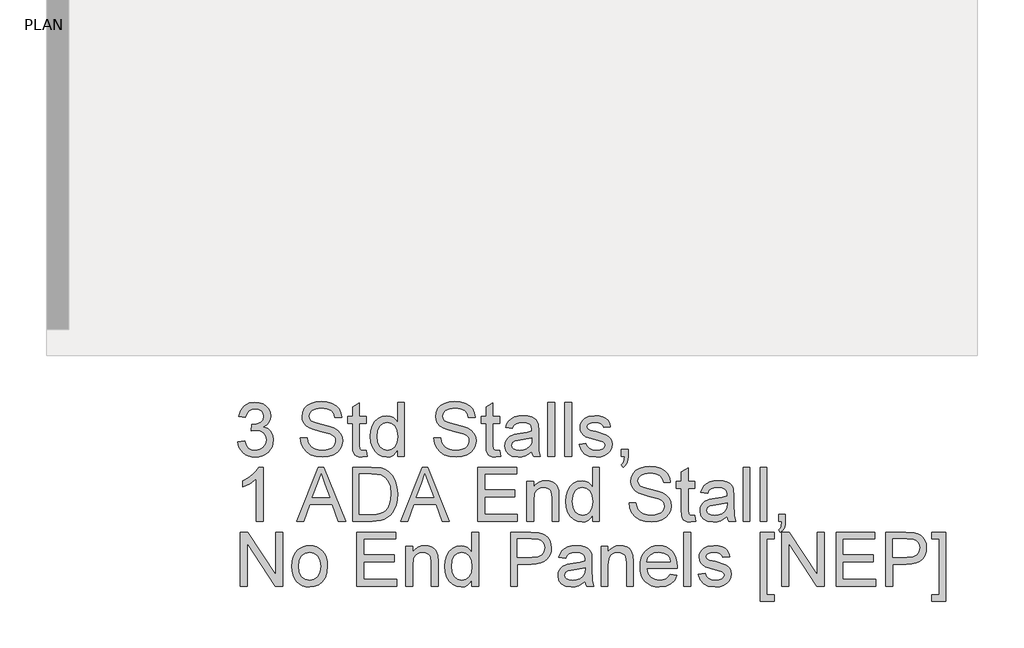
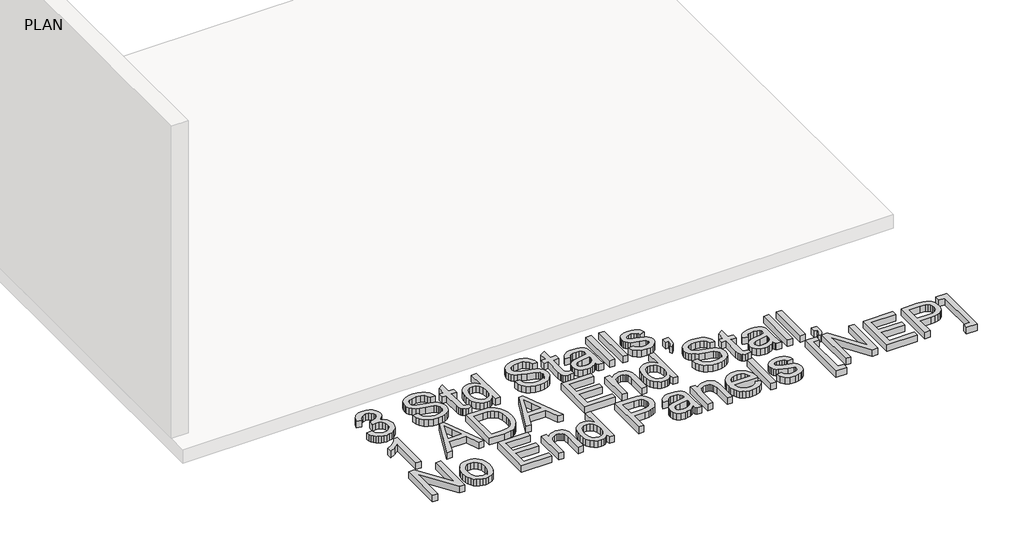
# One storey, part 14 of 21: 1 proxy.
"""IFC4 building model written with IfcOpenShell, lengths in millimetres."""

from ifc_helpers import new_model, si_unit, origin, origin_with_axes, place, context, project, spatial, polyline, outline, extrude, element, save

model = new_model("IFC4")

# Units and contexts
model_context = context("Model", 3, world=origin())
ifc_project = project(units=[si_unit("LENGTHUNIT", "METRE", prefix="MILLI")], contexts=[model_context])

# Site, building, storey
site = spatial("IfcSite", under=ifc_project)
building = spatial("IfcBuilding", under=site)
storey = spatial("IfcBuildingStorey", under=building, Name="PLAN", Elevation=0.0)

# Proxy
placement = place(None, origin())
element("IfcBuildingElementProxy", 1, Name="12\" Arial", ObjectType="12\" Arial", at=placement, inside=storey, context=model_context, shape_type="SweptSolid", body=[
    extrude(outline(polyline([(-6163.822826, 3793.9401982), (-6125.7519393, 3798.6990591), (-6117.2287451, 3774.7746298), (-6104.7460301, 3758.6205279), (-6087.6903472, 3749.4188243), (-6065.4482495, 3746.3515898), (-6039.3488721, 3750.5713609), (-6019.1980707, 3763.2306744), (-6006.3156856, 3782.1174033), (-6002.0215573, 3805.0194211), (-6006.278507, 3826.7596077), (-6019.0493563, 3844.3915589), (-6038.3822285, 3856.0749341), (-6062.3252471, 3859.9693925), (-6089.0194821, 3855.8053892), (-6084.7811217, 3893.876276), (-6078.6838312, 3893.4301328), (-6055.8747599, 3896.1627599), (-6035.4822976, 3904.3606413), (-6021.0941793, 3918.2282592), (-6016.2981398, 3937.970096), (-6019.774339, 3954.412332), (-6030.2029364, 3967.7501549), (-6046.1153773, 3976.5893671), (-6066.0431071, 3979.5357712), (-6086.0080155, 3976.5614832), (-6102.3294211, 3967.6386191), (-6114.2451625, 3952.7671789), (-6120.9930784, 3931.9471627), (-6159.0639652, 3936.7060236), (-6147.8546172, 3970.8917466), (-6127.9082981, 3996.4148557), (-6100.6192054, 4012.3087074), (-6067.3815367, 4017.6066579), (-6043.4478127, 4014.9948613), (-6021.4659653, 4007.1594712), (-6002.932433, 3994.7975866), (-5989.3436546, 3978.6063062), (-5981.0063535, 3959.9519435), (-5978.2272531, 3940.200812), (-5980.8669337, 3921.7974048), (-5988.7859756, 3905.1042133), (-6001.8728429, 3890.8833987), (-6020.0159999, 3879.8971222), (-5996.1845171, 3870.2678648), (-5978.5246819, 3853.872102), (-5967.5941734, 3831.6021204), (-5963.9506706, 3804.3502063), (-5965.772422, 3785.0359235), (-5971.2376762, 3767.2459632), (-5980.3464333, 3750.9803255), (-5993.0986932, 3736.2390105), (-6008.6347008, 3724.007251), (-6026.094701, 3715.2702799), (-6045.4786938, 3710.0280972), (-6066.7866791, 3708.280703), (-6086.0451941, 3709.7724944), (-6103.5934935, 3714.2478684), (-6119.4315772, 3721.7068251), (-6133.5594453, 3732.1493645), (-6145.4054769, 3744.9620396), (-6154.3980508, 3759.5314036), (-6160.5371672, 3775.8574565), (-6163.822826, 3793.9401982)])), origin_with_axes(), (0.0, 0.0, 1.0), 50.8),
    extrude(outline(polyline([(-5811.6671235, 3817.7345025), (-5773.5962368, 3817.7345025), (-5769.2277512, 3796.6077628), (-5761.3272986, 3779.6264371), (-5749.0025926, 3766.1491945), (-5731.3613468, 3755.5347041), (-5709.7977586, 3748.6473684), (-5685.7060255, 3746.3515898), (-5664.495634, 3748.0896894), (-5645.9249232, 3753.3039881), (-5630.8768847, 3761.5576373), (-5620.2345103, 3772.4137886), (-5613.9048536, 3784.8779144), (-5611.794968, 3797.9554871), (-5613.3750585, 3810.6984523), (-5618.1153301, 3821.7126127), (-5627.7445876, 3831.1095039), (-5643.9916359, 3839.0006619), (-5699.4249291, 3853.5374946), (-5735.8134842, 3863.1574574), (-5759.0965826, 3872.3126878), (-5778.0483741, 3885.1207156), (-5791.4791435, 3900.6427812), (-5799.4818373, 3918.5442773), (-5802.1494018, 3938.4905964), (-5798.849801, 3960.788462), (-5788.9509987, 3981.5805942), (-5772.713245, 3999.2032508), (-5750.3967901, 4011.9926893), (-5723.6096086, 4019.7723114), (-5693.9596748, 4022.3655188), (-5661.8373641, 4019.651481), (-5633.7303422, 4011.5093675), (-5610.6424314, 3998.1064821), (-5593.5774539, 3979.6101284), (-5582.7770705, 3957.1728431), (-5578.4829421, 3931.9471627), (-5616.5538289, 3931.9471627), (-5623.5434057, 3954.6632876), (-5638.1174171, 3971.0590503), (-5660.8893098, 3980.9857366), (-5692.4725308, 3984.294632), (-5724.7993238, 3981.0229152), (-5746.9763589, 3971.2077647), (-5759.802976, 3956.7638785), (-5764.0785151, 3939.6059544), (-5761.0484591, 3924.9761752), (-5751.9582914, 3913.2091482), (-5730.4690604, 3902.6876043), (-5689.7956716, 3891.9429888), (-5647.8210318, 3881.737463), (-5622.4280477, 3872.8331882), (-5600.7250398, 3859.0213382), (-5585.5840548, 3841.9749499), (-5576.6890747, 3821.8799164), (-5573.7240813, 3798.9221307), (-5577.1352179, 3775.4531392), (-5587.3686276, 3753.3783453), (-5604.0060513, 3734.3800805), (-5626.6292296, 3720.1406765), (-5653.8346704, 3711.2456964), (-5684.2188815, 3708.280703), (-5721.5183123, 3711.4780627), (-5752.2185416, 3721.0701416), (-5776.6727659, 3737.0941183), (-5795.2341822, 3759.5871715), (-5807.1499236, 3786.9878), (-5811.6671235, 3817.7345025)])), origin_with_axes(), (0.0, 0.0, 1.0), 50.8),
    extrude(outline(polyline([(-5440.4759776, 3744.7900886), (-5435.7171168, 3711.9242059), (-5464.1959246, 3708.280703), (-5482.4692067, 3709.8607935), (-5496.0951637, 3714.6010651), (-5505.7244212, 3721.9066601), (-5512.0076047, 3731.1827208), (-5515.4652145, 3747.1137511), (-5516.6177511, 3774.3842545), (-5516.6177511, 3898.6351368), (-5545.1709162, 3898.6351368), (-5545.1709162, 3936.7060236), (-5516.6177511, 3936.7060236), (-5516.6177511, 3991.0611373), (-5478.5468644, 4013.4426547), (-5478.5468644, 3936.7060236), (-5440.4759776, 3936.7060236), (-5440.4759776, 3898.6351368), (-5478.5468644, 3898.6351368), (-5478.5468644, 3775.4996125), (-5476.53922, 3755.8693115), (-5470.0329649, 3748.9169132), (-5457.0576334, 3746.3515898), (-5440.4759776, 3744.7900886)])), origin_with_axes(), (0.0, 0.0, 1.0), 50.8),
    extrude(outline(polyline([(-5264.3981264, 3713.0395639), (-5264.3981264, 3748.9540918), (-5275.78872, 3731.1594842), (-5289.5866281, 3718.4490502), (-5305.7918505, 3710.8227898), (-5324.4043873, 3708.280703), (-5349.0166208, 3711.9613845), (-5371.5468526, 3723.0034288), (-5390.6194746, 3740.63538), (-5404.8588785, 3764.0857822), (-5413.7259747, 3792.406581), (-5416.6816734, 3824.6497221), (-5413.9583409, 3856.4931933), (-5405.7883435, 3885.2508407), (-5392.1809758, 3909.2868058), (-5373.1455324, 3926.9652303), (-5350.1226841, 3937.8399709), (-5324.5531017, 3941.4648844), (-5305.926623, 3938.8716771), (-5289.456503, 3931.0920549), (-5275.4959386, 3919.1670189), (-5264.3981264, 3904.1375697), (-5264.3981264, 4017.6066579), (-5226.3272396, 4017.6066579), (-5226.3272396, 3713.0395639), (-5264.3981264, 3713.0395639)]), holes=[polyline([(-5378.6107866, 3824.7984365), (-5374.3166583, 3790.361758), (-5361.4342733, 3765.870355), (-5342.714848, 3751.2312811), (-5320.9095989, 3746.3515898), (-5299.1136444, 3751.0082095), (-5280.8682463, 3764.9780686), (-5268.5156564, 3788.5214172), (-5264.3981264, 3821.8985057), (-5268.5900136, 3858.3893019), (-5281.1656751, 3883.6893395), (-5299.8758057, 3898.4678331), (-5322.4711001, 3903.3939977), (-5344.4994208, 3898.6630208), (-5362.5496313, 3884.4700901), (-5374.5954978, 3860.0902229), (-5378.6107866, 3824.7984365)])]), origin_with_axes(), (0.0, 0.0, 1.0), 50.8),
    extrude(outline(polyline([(-5059.76711, 3817.7345025), (-5021.6962233, 3817.7345025), (-5017.3277377, 3796.6077628), (-5009.4272852, 3779.6264371), (-4997.1025791, 3766.1491945), (-4979.4613333, 3755.5347041), (-4957.8977451, 3748.6473684), (-4933.806012, 3746.3515898), (-4912.5956205, 3748.0896894), (-4894.0249097, 3753.3039881), (-4878.9768712, 3761.5576373), (-4868.3344968, 3772.4137886), (-4862.0048401, 3784.8779144), (-4859.8949546, 3797.9554871), (-4861.4750451, 3810.6984523), (-4866.2153166, 3821.7126127), (-4875.8445741, 3831.1095039), (-4892.0916225, 3839.0006619), (-4947.5249156, 3853.5374946), (-4983.9134707, 3863.1574574), (-5007.1965691, 3872.3126878), (-5026.1483607, 3885.1207156), (-5039.57913, 3900.6427812), (-5047.5818238, 3918.5442773), (-5050.2493883, 3938.4905964), (-5046.9497876, 3960.788462), (-5037.0509852, 3981.5805942), (-5020.8132315, 3999.2032508), (-4998.4967767, 4011.9926893), (-4971.7095951, 4019.7723114), (-4942.0596613, 4022.3655188), (-4909.9373506, 4019.651481), (-4881.8303288, 4011.5093675), (-4858.7424179, 3998.1064821), (-4841.6774404, 3979.6101284), (-4830.877057, 3957.1728431), (-4826.5829286, 3931.9471627), (-4864.6538154, 3931.9471627), (-4871.6433923, 3954.6632876), (-4886.2174036, 3971.0590503), (-4908.9892963, 3980.9857366), (-4940.5725173, 3984.294632), (-4972.8993103, 3981.0229152), (-4995.0763454, 3971.2077647), (-5007.9029625, 3956.7638785), (-5012.1785016, 3939.6059544), (-5009.1484457, 3924.9761752), (-5000.0582779, 3913.2091482), (-4978.5690469, 3902.6876043), (-4937.8956581, 3891.9429888), (-4895.9210183, 3881.737463), (-4870.5280343, 3872.8331882), (-4848.8250263, 3859.0213382), (-4833.6840413, 3841.9749499), (-4824.7890612, 3821.8799164), (-4821.8240678, 3798.9221307), (-4825.2352044, 3775.4531392), (-4835.4686141, 3753.3783453), (-4852.1060378, 3734.3800805), (-4874.7292161, 3720.1406765), (-4901.9346569, 3711.2456964), (-4932.318868, 3708.280703), (-4969.6182988, 3711.4780627), (-5000.3185281, 3721.0701416), (-5024.7727525, 3737.0941183), (-5043.3341687, 3759.5871715), (-5055.2499101, 3786.9878), (-5059.76711, 3817.7345025)])), origin_with_axes(), (0.0, 0.0, 1.0), 50.8),
    extrude(outline(polyline([(-4688.5759641, 3744.7900886), (-4683.8171033, 3711.9242059), (-4712.2959112, 3708.280703), (-4730.5691932, 3709.8607935), (-4744.1951503, 3714.6010651), (-4753.8244078, 3721.9066601), (-4760.1075912, 3731.1827208), (-4763.565201, 3747.1137511), (-4764.7177377, 3774.3842545), (-4764.7177377, 3898.6351368), (-4793.2709027, 3898.6351368), (-4793.2709027, 3936.7060236), (-4764.7177377, 3936.7060236), (-4764.7177377, 3991.0611373), (-4726.6468509, 4013.4426547), (-4726.6468509, 3936.7060236), (-4688.5759641, 3936.7060236), (-4688.5759641, 3898.6351368), (-4726.6468509, 3898.6351368), (-4726.6468509, 3775.4996125), (-4724.6392065, 3755.8693115), (-4718.1329514, 3748.9169132), (-4705.1576199, 3746.3515898), (-4688.5759641, 3744.7900886)])), origin_with_axes(), (0.0, 0.0, 1.0), 50.8),
    extrude(outline(polyline([(-4507.739252, 3741.5927289), (-4525.9288823, 3725.9963061), (-4544.6576022, 3715.7907803), (-4564.3529657, 3710.1582224), (-4585.4425268, 3708.280703), (-4617.258114, 3712.797903), (-4640.7271055, 3726.3495028), (-4655.1988757, 3746.9278581), (-4660.0227991, 3772.5253244), (-4658.2010477, 3788.3076403), (-4652.7357934, 3802.6399907), (-4644.3055458, 3814.9089288), (-4633.5888142, 3824.5010077), (-4606.9317578, 3836.9930174), (-4573.9915179, 3842.7185219), (-4535.0655233, 3848.7414552), (-4507.9623236, 3855.8053892), (-4507.739252, 3864.2821101), (-4510.3603434, 3881.2727305), (-4518.2236173, 3892.389132), (-4535.8090953, 3900.6427812), (-4560.3097929, 3903.3939977), (-4582.9887391, 3901.5629516), (-4598.8268229, 3896.0698134), (-4609.6272063, 3885.9107609), (-4617.1930515, 3870.0819718), (-4655.2639382, 3874.8408326), (-4648.655442, 3895.6608488), (-4638.7938183, 3912.019433), (-4624.7588966, 3924.530032), (-4605.6305068, 3933.8060928), (-4582.2358725, 3939.5501865), (-4555.4022177, 3941.4648844), (-4529.6653316, 3939.7732581), (-4509.2635747, 3934.6983792), (-4493.8809288, 3927.0674714), (-4483.2013758, 3917.7077588), (-4476.1188524, 3906.1359194), (-4471.5272953, 3891.8686316), (-4469.6683653, 3858.5566056), (-4469.6683653, 3811.1910688), (-4467.7350781, 3745.0503388), (-4460.1506436, 3713.0395639), (-4498.2215303, 3713.0395639), (-4504.3188208, 3726.2751456), (-4507.739252, 3741.5927289)]), holes=[polyline([(-4507.739252, 3817.7345025), (-4569.1582998, 3806.060422), (-4601.9126467, 3799.8887743), (-4616.7469083, 3789.8505522), (-4621.9519123, 3775.2021837), (-4619.117044, 3763.8812999), (-4610.6124392, 3754.6052391), (-4596.6239908, 3748.4150021), (-4577.3375919, 3746.3515898), (-4556.8893617, 3748.6287791), (-4538.8205619, 3755.4603469), (-4524.1721934, 3765.5264529), (-4513.9852569, 3777.5072569), (-4509.468057, 3789.8505522), (-4507.9623236, 3806.9527084), (-4507.739252, 3817.7345025)])]), origin_with_axes(), (0.0, 0.0, 1.0), 50.8),
    extrude(outline(polyline([(-4417.320896, 3713.0395639), (-4417.320896, 4017.6066579), (-4379.2500092, 4017.6066579), (-4379.2500092, 3713.0395639), (-4417.320896, 3713.0395639)])), origin_with_axes(), (0.0, 0.0, 1.0), 50.8),
    extrude(outline(polyline([(-4322.1436791, 3713.0395639), (-4322.1436791, 4017.6066579), (-4284.0727923, 4017.6066579), (-4284.0727923, 3713.0395639), (-4322.1436791, 3713.0395639)])), origin_with_axes(), (0.0, 0.0, 1.0), 50.8),
    extrude(outline(polyline([(-4241.2430447, 3779.6636157), (-4203.172158, 3784.4224765), (-4197.167814, 3768.1382496), (-4185.5495014, 3756.1667403), (-4168.2428629, 3748.8053774), (-4145.1735414, 3746.3515898), (-4122.3830594, 3748.6008951), (-4106.3590827, 3755.3488111), (-4096.8785396, 3765.126783), (-4093.7183585, 3776.4662561), (-4096.8971289, 3786.1698708), (-4106.4334399, 3793.5684122), (-4145.6196846, 3804.4245635), (-4202.9490864, 3823.0510423), (-4217.4580352, 3832.410755), (-4227.9702844, 3844.8005235), (-4234.355709, 3859.4303028), (-4236.4841839, 3875.5100474), (-4234.7739683, 3890.2606571), (-4229.6433214, 3903.8773195), (-4221.5569758, 3915.8209448), (-4210.979664, 3925.5524435), (-4186.7763952, 3936.8175594), (-4154.0220483, 3941.4648844), (-4129.2425112, 3939.5966598), (-4107.6975123, 3933.9919858), (-4090.3722845, 3925.1992468), (-4078.2520608, 3913.7668272), (-4070.2214831, 3898.8489138), (-4065.1651935, 3879.5996934), (-4103.2360802, 3874.8408326), (-4108.0414143, 3886.8216366), (-4117.5498414, 3895.8467418), (-4131.8543078, 3901.5071837), (-4151.0477603, 3903.3939977), (-4172.9087773, 3901.5908356), (-4187.4827886, 3896.1813492), (-4195.68067, 3888.3738431), (-4198.4132971, 3879.3766218), (-4193.8775079, 3868.2973989), (-4179.6752825, 3859.8950353), (-4146.883757, 3851.7901004), (-4091.0043207, 3833.870015), (-4076.2444164, 3825.3003476), (-4065.0536577, 3813.5704992), (-4057.9990183, 3798.6432912), (-4055.6474718, 3780.4815449), (-4058.4079829, 3761.7063517), (-4066.6895161, 3744.0465166), (-4080.1760534, 3728.8869423), (-4098.5515766, 3717.6125317), (-4120.747201, 3710.6136602), (-4145.6940418, 3708.280703), (-4184.0809467, 3712.7793137), (-4212.0950221, 3726.2751456), (-4230.795858, 3748.6194844), (-4241.2430447, 3779.6636157)])), origin_with_axes(), (0.0, 0.0, 1.0), 50.8),
    extrude(outline(polyline([(-4003.3000025, 3713.0395639), (-4003.3000025, 3751.1104506), (-3965.2291157, 3751.1104506), (-3965.2291157, 3713.0395639), (-3966.9393313, 3691.2621987), (-3972.0699782, 3674.1135693), (-3980.9184851, 3660.9616394), (-3993.7822808, 3651.1743729), (-4003.3000025, 3665.4509554), (-3995.0463532, 3672.3475858), (-3989.3208488, 3681.8838968), (-3984.3389163, 3713.0395639), (-4003.3000025, 3713.0395639)])), origin_with_axes(), (0.0, 0.0, 1.0), 50.8),
    extrude(outline(polyline([(-6021.0570007, 3346.9868995), (-6059.1278874, 3346.9868995), (-6059.1278874, 3584.3350842), (-6095.1911298, 3558.6446713), (-6135.269661, 3539.423335), (-6135.269661, 3575.4122201), (-6105.3687716, 3591.6778577), (-6079.4645818, 3611.0293192), (-6059.0442356, 3631.6076745), (-6045.5948769, 3651.5539936), (-6021.0570007, 3651.5539936), (-6021.0570007, 3346.9868995)])), origin_with_axes(), (0.0, 0.0, 1.0), 50.8),
    extrude(outline(polyline([(-5832.8589257, 3346.9868995), (-5711.2849026, 3651.5539936), (-5678.8651631, 3651.5539936), (-5557.2911399, 3346.9868995), (-5597.5183855, 3346.9868995), (-5632.3919126, 3442.1641164), (-5757.8325102, 3442.1641164), (-5792.6316801, 3346.9868995), (-5832.8589257, 3346.9868995)]), holes=[polyline([(-5743.8533565, 3480.2350032), (-5646.2967092, 3480.2350032), (-5673.7345162, 3555.1127043), (-5695.0750328, 3613.4831068), (-5714.036119, 3561.656138), (-5743.8533565, 3480.2350032)])]), origin_with_axes(), (0.0, 0.0, 1.0), 50.8),
    extrude(outline(polyline([(-5516.6177511, 3346.9868995), (-5516.6177511, 3651.5539936), (-5411.5510265, 3651.5539936), (-5357.1959128, 3647.1669188), (-5332.9182868, 3638.7087872), (-5312.432878, 3625.380259), (-5291.3712009, 3602.1808123), (-5276.3696357, 3573.3302185), (-5267.3910037, 3539.3861564), (-5264.3981264, 3500.906305), (-5266.4243601, 3468.2170206), (-5272.5030612, 3439.4500786), (-5281.7605327, 3414.9586756), (-5293.3230774, 3395.0960084), (-5306.6330164, 3379.4159337), (-5321.1326705, 3367.4723083), (-5337.7793888, 3358.6145068), (-5357.5305202, 3352.1919036), (-5406.4947369, 3346.9868995), (-5516.6177511, 3346.9868995)]), holes=[polyline([(-5478.5468644, 3385.0577863), (-5411.1792405, 3385.0577863), (-5383.3138796, 3386.4333945), (-5362.1778453, 3390.5602191), (-5346.2282257, 3397.1965993), (-5333.922109, 3406.1008741), (-5320.6958219, 3422.5802887), (-5310.759841, 3443.9115107), (-5304.5417201, 3470.1874864), (-5302.4690131, 3501.5011626), (-5306.5307752, 3542.9924806), (-5318.7160615, 3573.6276473), (-5336.7197987, 3594.6707351), (-5358.2369136, 3607.3858164), (-5380.1351093, 3611.9587842), (-5412.2202414, 3613.4831068), (-5478.5468644, 3613.4831068), (-5478.5468644, 3385.0577863)])]), origin_with_axes(), (0.0, 0.0, 1.0), 50.8),
    extrude(outline(polyline([(-5247.5190418, 3346.9868995), (-5125.9450187, 3651.5539936), (-5093.5252792, 3651.5539936), (-4971.951256, 3346.9868995), (-5012.1785016, 3346.9868995), (-5047.0520287, 3442.1641164), (-5172.4926263, 3442.1641164), (-5207.2917962, 3346.9868995), (-5247.5190418, 3346.9868995)]), holes=[polyline([(-5158.5134726, 3480.2350032), (-5060.9568252, 3480.2350032), (-5088.3946323, 3555.1127043), (-5109.7351489, 3613.4831068), (-5128.6962351, 3561.656138), (-5158.5134726, 3480.2350032)])]), origin_with_axes(), (0.0, 0.0, 1.0), 50.8),
    extrude(outline(polyline([(-4812.3063461, 3346.9868995), (-4812.3063461, 3651.5539936), (-4593.3987472, 3651.5539936), (-4593.3987472, 3613.4831068), (-4774.2354593, 3613.4831068), (-4774.2354593, 3523.0647508), (-4602.9164689, 3523.0647508), (-4602.9164689, 3484.993864), (-4774.2354593, 3484.993864), (-4774.2354593, 3385.0577863), (-4588.6398864, 3385.0577863), (-4588.6398864, 3346.9868995), (-4812.3063461, 3346.9868995)])), origin_with_axes(), (0.0, 0.0, 1.0), 50.8),
    extrude(outline(polyline([(-4536.2924171, 3346.9868995), (-4536.2924171, 3570.6533592), (-4498.2215303, 3570.6533592), (-4498.2215303, 3539.423335), (-4484.9952433, 3555.1684722), (-4469.1106863, 3566.4149988), (-4450.5678593, 3573.1629148), (-4429.3667625, 3575.4122201), (-4410.600864, 3573.5997633), (-4393.415056, 3568.162393), (-4379.0827055, 3559.7786186), (-4368.8771797, 3549.1269496), (-4357.4633494, 3521.1314636), (-4355.455705, 3484.3246492), (-4355.455705, 3346.9868995), (-4393.5265918, 3346.9868995), (-4393.5265918, 3479.1940024), (-4397.9136666, 3512.8778143), (-4403.9830731, 3522.9067417), (-4413.4171429, 3530.6863639), (-4425.5094827, 3535.677591), (-4439.553699, 3537.3413333), (-4461.8515646, 3533.604884), (-4480.859124, 3522.395536), (-4488.4551768, 3513.244953), (-4493.8809288, 3500.7390013), (-4498.2215303, 3465.6609919), (-4498.2215303, 3346.9868995), (-4536.2924171, 3346.9868995)])), origin_with_axes(), (0.0, 0.0, 1.0), 50.8),
    extrude(outline(polyline([(-4165.1012712, 3346.9868995), (-4165.1012712, 3382.9014275), (-4176.4918649, 3365.1068199), (-4190.2897729, 3352.3963859), (-4206.4949954, 3344.7701255), (-4225.1075322, 3342.2280387), (-4249.7197656, 3345.9087201), (-4272.2499974, 3356.9507644), (-4291.3226194, 3374.5827156), (-4305.5620233, 3398.0331178), (-4314.4291195, 3426.3539166), (-4317.3848182, 3458.5970578), (-4314.6614858, 3490.440529), (-4306.4914883, 3519.1981764), (-4292.8841206, 3543.2341415), (-4273.8486772, 3560.912566), (-4250.825829, 3571.7873066), (-4225.2562466, 3575.4122201), (-4206.6297678, 3572.8190127), (-4190.1596478, 3565.0393906), (-4176.1990834, 3553.1143545), (-4165.1012712, 3538.0849053), (-4165.1012712, 3651.5539936), (-4127.0303845, 3651.5539936), (-4127.0303845, 3346.9868995), (-4165.1012712, 3346.9868995)]), holes=[polyline([(-4279.3139315, 3458.7457722), (-4275.0198031, 3424.3090936), (-4262.1374181, 3399.8176906), (-4243.4179928, 3385.1786167), (-4221.6127437, 3380.2989255), (-4199.8167893, 3384.9555451), (-4181.5713912, 3398.9254042), (-4169.2188012, 3422.4687529), (-4165.1012712, 3455.8458414), (-4169.2931584, 3492.3366376), (-4181.86882, 3517.6366751), (-4200.5789506, 3532.4151688), (-4223.174245, 3537.3413333), (-4245.2025657, 3532.6103564), (-4263.2527761, 3518.4174258), (-4275.2986426, 3494.0375586), (-4279.3139315, 3458.7457722)])]), origin_with_axes(), (0.0, 0.0, 1.0), 50.8),
    extrude(outline(polyline([(-3960.4702549, 3451.6818381), (-3922.3993681, 3451.6818381), (-3918.0308826, 3430.5550985), (-3910.13043, 3413.5737728), (-3897.805724, 3400.0965301), (-3880.1644781, 3389.4820397), (-3858.6008899, 3382.594704), (-3834.5091569, 3380.2989255), (-3813.2987654, 3382.037025), (-3794.7280545, 3387.2513237), (-3779.680016, 3395.504973), (-3769.0376417, 3406.3611243), (-3762.707985, 3418.8252501), (-3760.5980994, 3431.9028227), (-3762.1781899, 3444.645788), (-3766.9184615, 3455.6599484), (-3776.5477189, 3465.0568396), (-3792.7947673, 3472.9479975), (-3848.2280604, 3487.4848303), (-3884.6166155, 3497.1047931), (-3907.899714, 3506.2600234), (-3926.8515055, 3519.0680513), (-3940.2822749, 3534.5901169), (-3948.2849686, 3552.491613), (-3950.9525332, 3572.4379321), (-3947.6529324, 3594.7357976), (-3937.7541301, 3615.5279299), (-3921.5163764, 3633.1505864), (-3899.1999215, 3645.940025), (-3872.41274, 3653.7196471), (-3842.7628062, 3656.3128545), (-3810.6404955, 3653.5988166), (-3782.5334736, 3645.4567031), (-3759.4455628, 3632.0538177), (-3742.3805852, 3613.557464), (-3731.5802018, 3591.1201787), (-3727.2860735, 3565.8944984), (-3765.3569602, 3565.8944984), (-3772.3465371, 3588.6106232), (-3786.9205484, 3605.006386), (-3809.6924412, 3614.9330723), (-3841.2756622, 3618.2419677), (-3873.6024552, 3614.9702509), (-3895.7794903, 3605.1551004), (-3908.6061074, 3590.7112141), (-3912.8816464, 3573.5532901), (-3909.8515905, 3558.9235108), (-3900.7614227, 3547.1564838), (-3879.2721917, 3536.6349399), (-3838.5988029, 3525.8903244), (-3796.6241631, 3515.6847986), (-3771.2311791, 3506.7805238), (-3749.5281711, 3492.9686738), (-3734.3871862, 3475.9222856), (-3725.492206, 3455.8272521), (-3722.5272126, 3432.8694663), (-3725.9383492, 3409.4004749), (-3736.171759, 3387.3256809), (-3752.8091826, 3368.3274161), (-3775.4323609, 3354.0880122), (-3802.6378017, 3345.1930321), (-3833.0220129, 3342.2280387), (-3870.3214437, 3345.4253983), (-3901.0216729, 3355.0174772), (-3925.4758973, 3371.041454), (-3944.0373135, 3393.5345072), (-3955.9530549, 3420.9351356), (-3960.4702549, 3451.6818381)])), origin_with_axes(), (0.0, 0.0, 1.0), 50.8),
    extrude(outline(polyline([(-3589.279109, 3378.7374242), (-3584.5202481, 3345.8715415), (-3612.999056, 3342.2280387), (-3631.2723381, 3343.8081292), (-3644.8982951, 3348.5484008), (-3654.5275526, 3355.8539957), (-3660.8107361, 3365.1300565), (-3664.2683459, 3381.0610868), (-3665.4208825, 3408.3315901), (-3665.4208825, 3532.5824725), (-3693.9740476, 3532.5824725), (-3693.9740476, 3570.6533592), (-3665.4208825, 3570.6533592), (-3665.4208825, 3625.008473), (-3627.3499957, 3647.3899904), (-3627.3499957, 3570.6533592), (-3589.279109, 3570.6533592), (-3589.279109, 3532.5824725), (-3627.3499957, 3532.5824725), (-3627.3499957, 3409.4469481), (-3625.3423513, 3389.8166471), (-3618.8360963, 3382.8642489), (-3605.8607647, 3380.2989255), (-3589.279109, 3378.7374242)])), origin_with_axes(), (0.0, 0.0, 1.0), 50.8),
    extrude(outline(polyline([(-3408.4423969, 3375.5400646), (-3426.6320271, 3359.9436418), (-3445.360747, 3349.738116), (-3465.0561106, 3344.105558), (-3486.1456716, 3342.2280387), (-3517.9612589, 3346.7452386), (-3541.4302503, 3360.2968385), (-3555.9020205, 3380.8751938), (-3560.7259439, 3406.4726601), (-3558.9041925, 3422.2549759), (-3553.4389382, 3436.5873264), (-3545.0086906, 3448.8562645), (-3534.2919591, 3458.4483434), (-3507.6349026, 3470.9403531), (-3474.6946627, 3476.6658576), (-3435.7686681, 3482.6887908), (-3408.6654685, 3489.7527249), (-3408.4423969, 3498.2294458), (-3411.0634882, 3515.2200661), (-3418.9267622, 3526.3364676), (-3436.5122401, 3534.5901169), (-3461.0129378, 3537.3413333), (-3483.691884, 3535.5102873), (-3499.5299677, 3530.0171491), (-3510.3303511, 3519.8580965), (-3517.8961963, 3504.0293074), (-3555.9670831, 3508.7881683), (-3549.3585869, 3529.6081845), (-3539.4969631, 3545.9667686), (-3525.4620415, 3558.4773676), (-3506.3336516, 3567.7534284), (-3482.9390173, 3573.4975222), (-3456.1053625, 3575.4122201), (-3430.3684764, 3573.7205938), (-3409.9667195, 3568.6457148), (-3394.5840736, 3561.0148071), (-3383.9045207, 3551.6550945), (-3376.8219973, 3540.0832551), (-3372.2304401, 3525.8159672), (-3370.3715101, 3492.5039413), (-3370.3715101, 3445.1384045), (-3368.4382229, 3378.9976744), (-3360.8537884, 3346.9868995), (-3398.9246752, 3346.9868995), (-3405.0219657, 3360.2224813), (-3408.4423969, 3375.5400646)]), holes=[polyline([(-3408.4423969, 3451.6818381), (-3469.8614447, 3440.0077576), (-3502.6157916, 3433.83611), (-3517.4500531, 3423.7978879), (-3522.6550572, 3409.1495193), (-3519.8201889, 3397.8286355), (-3511.3155841, 3388.5525747), (-3497.3271357, 3382.3623378), (-3478.0407367, 3380.2989255), (-3457.5925065, 3382.5761147), (-3439.5237068, 3389.4076825), (-3424.8753382, 3399.4737886), (-3414.6884017, 3411.4545925), (-3410.1712018, 3423.7978879), (-3408.6654685, 3440.900044), (-3408.4423969, 3451.6818381)])]), origin_with_axes(), (0.0, 0.0, 1.0), 50.8),
    extrude(outline(polyline([(-3318.0240408, 3346.9868995), (-3318.0240408, 3651.5539936), (-3279.9531541, 3651.5539936), (-3279.9531541, 3346.9868995), (-3318.0240408, 3346.9868995)])), origin_with_axes(), (0.0, 0.0, 1.0), 50.8),
    extrude(outline(polyline([(-3222.8468239, 3346.9868995), (-3222.8468239, 3651.5539936), (-3184.7759372, 3651.5539936), (-3184.7759372, 3346.9868995), (-3222.8468239, 3346.9868995)])), origin_with_axes(), (0.0, 0.0, 1.0), 50.8),
    extrude(outline(polyline([(-3118.1518853, 3346.9868995), (-3118.1518853, 3385.0577863), (-3080.0809986, 3385.0577863), (-3080.0809986, 3346.9868995), (-3081.7912142, 3325.2095344), (-3086.9218611, 3308.060905), (-3095.7703679, 3294.9089751), (-3108.6341637, 3285.1217086), (-3118.1518853, 3299.3982911), (-3109.8982361, 3306.2949215), (-3104.1727316, 3315.8312324), (-3099.1907992, 3346.9868995), (-3118.1518853, 3346.9868995)])), origin_with_axes(), (0.0, 0.0, 1.0), 50.8),
    extrude(outline(polyline([(-6149.5462435, 2980.9342352), (-6149.5462435, 3285.5013293), (-6108.7984975, 3285.5013293), (-5949.674088, 3044.212213), (-5949.674088, 3285.5013293), (-5911.6032013, 3285.5013293), (-5911.6032013, 2980.9342352), (-5952.3509472, 2980.9342352), (-6111.4753567, 3222.2977087), (-6111.4753567, 2980.9342352), (-6149.5462435, 2980.9342352)])), origin_with_axes(), (0.0, 0.0, 1.0), 50.8),
    extrude(outline(polyline([(-5859.255732, 3092.7674651), (-5857.196967, 3121.7342421), (-5851.020672, 3146.6950249), (-5840.726847, 3167.6498135), (-5826.3154921, 3184.5986079), (-5811.8065433, 3195.4315226), (-5795.7918612, 3203.1693188), (-5778.2714458, 3207.8119965), (-5759.245297, 3209.3595558), (-5738.2417115, 3207.4750654), (-5719.2504177, 3201.8215945), (-5702.2714156, 3192.399143), (-5687.3047053, 3179.2077109), (-5675.0892115, 3162.6934413), (-5666.3638587, 3143.3024776), (-5661.128647, 3121.0348196), (-5659.3835765, 3095.8904675), (-5662.4694003, 3057.4292054), (-5671.7268718, 3028.1510576), (-5686.8864461, 3006.2249781), (-5707.6785783, 2989.8199207), (-5732.3744636, 2979.5865109), (-5759.245297, 2976.1753744), (-5780.555606, 2978.0528937), (-5799.7234982, 2983.6854516), (-5816.7489735, 2993.0730482), (-5831.6320319, 3006.2156834), (-5843.7174007, 3022.8902857), (-5852.3498069, 3042.8737834), (-5857.5292507, 3066.1661765), (-5859.255732, 3092.7674651)]), holes=[polyline([(-5821.1848452, 3092.8418223), (-5816.7791811, 3058.3865544), (-5803.5621886, 3033.8393835), (-5783.6716375, 3019.1445417), (-5759.245297, 3014.2462611), (-5734.9304924, 3019.1724257), (-5715.0771198, 3033.9509193), (-5701.8601274, 3058.8234029), (-5697.4544632, 3094.0315375), (-5701.8880113, 3127.4829831), (-5715.1886556, 3151.6955466), (-5735.0699121, 3166.3903884), (-5759.245297, 3171.288669), (-5783.6716375, 3166.4089777), (-5803.5621886, 3151.7699038), (-5816.7791811, 3127.2785008), (-5821.1848452, 3092.8418223)])]), origin_with_axes(), (0.0, 0.0, 1.0), 50.8),
    extrude(outline(polyline([(-5492.8234469, 2980.9342352), (-5492.8234469, 3285.5013293), (-5273.9158481, 3285.5013293), (-5273.9158481, 3247.4304425), (-5454.7525602, 3247.4304425), (-5454.7525602, 3157.0120865), (-5283.4335697, 3157.0120865), (-5283.4335697, 3118.9411997), (-5454.7525602, 3118.9411997), (-5454.7525602, 3019.005122), (-5269.1569872, 3019.005122), (-5269.1569872, 2980.9342352), (-5492.8234469, 2980.9342352)])), origin_with_axes(), (0.0, 0.0, 1.0), 50.8),
    extrude(outline(polyline([(-5216.8095179, 2980.9342352), (-5216.8095179, 3204.6006949), (-5178.7386312, 3204.6006949), (-5178.7386312, 3173.3706706), (-5165.5123441, 3189.1158079), (-5149.6277871, 3200.3623345), (-5131.0849602, 3207.1102504), (-5109.8838633, 3209.3595558), (-5091.1179648, 3207.547099), (-5073.9321568, 3202.1097287), (-5059.5998063, 3193.7259543), (-5049.3942805, 3183.0742853), (-5037.9804502, 3155.0787992), (-5035.9728058, 3118.2719849), (-5035.9728058, 2980.9342352), (-5074.0436926, 2980.9342352), (-5074.0436926, 3113.141338), (-5078.4307674, 3146.82515), (-5084.5001739, 3156.8540774), (-5093.9342438, 3164.6336995), (-5106.0265835, 3169.6249266), (-5120.0707998, 3171.288669), (-5142.3686654, 3167.5522197), (-5161.3762248, 3156.3428717), (-5168.9722776, 3147.1922886), (-5174.3980296, 3134.6863369), (-5178.7386312, 3099.6083275), (-5178.7386312, 2980.9342352), (-5216.8095179, 2980.9342352)])), origin_with_axes(), (0.0, 0.0, 1.0), 50.8),
    extrude(outline(polyline([(-4845.618372, 2980.9342352), (-4845.618372, 3016.8487631), (-4857.0089657, 2999.0541555), (-4870.8068738, 2986.3437215), (-4887.0120962, 2978.7174612), (-4905.624633, 2976.1753744), (-4930.2368664, 2979.8560558), (-4952.7670982, 2990.8981001), (-4971.8397202, 3008.5300513), (-4986.0791241, 3031.9804535), (-4994.9462203, 3060.3012523), (-4997.9019191, 3092.5443935), (-4995.1785866, 3124.3878647), (-4987.0085891, 3153.145512), (-4973.4012214, 3177.1814771), (-4954.365778, 3194.8599016), (-4931.3429298, 3205.7346422), (-4905.7733474, 3209.3595558), (-4887.1468686, 3206.7663484), (-4870.6767487, 3198.9867263), (-4856.7161842, 3187.0616902), (-4845.618372, 3172.032241), (-4845.618372, 3285.5013293), (-4807.5474853, 3285.5013293), (-4807.5474853, 2980.9342352), (-4845.618372, 2980.9342352)]), holes=[polyline([(-4959.8310323, 3092.6931079), (-4955.536904, 3058.2564293), (-4942.6545189, 3033.7650263), (-4923.9350937, 3019.1259524), (-4902.1298446, 3014.2462611), (-4880.3338901, 3018.9028808), (-4862.088492, 3032.8727399), (-4849.735902, 3056.4160886), (-4845.618372, 3089.793177), (-4849.8102592, 3126.2839733), (-4862.3859208, 3151.5840108), (-4881.0960514, 3166.3625044), (-4903.6913458, 3171.288669), (-4925.7196665, 3166.5576921), (-4943.7698769, 3152.3647614), (-4955.8157435, 3127.9848942), (-4959.8310323, 3092.6931079)])]), origin_with_axes(), (0.0, 0.0, 1.0), 50.8),
    extrude(outline(polyline([(-4626.7107732, 2980.9342352), (-4626.7107732, 3285.5013293), (-4513.8365425, 3285.5013293), (-4468.3299357, 3282.6013984), (-4448.0397145, 3277.1826174), (-4431.3372283, 3268.3619945), (-4417.8878696, 3255.7398597), (-4407.3570311, 3238.916543), (-4400.5533472, 3219.0724651), (-4398.2854526, 3197.3880464), (-4399.8167462, 3178.6918578), (-4404.410627, 3161.4921078), (-4412.067095, 3145.7887965), (-4422.7861502, 3131.5819238), (-4437.501905, 3119.8056022), (-4457.1484716, 3111.3939438), (-4481.7258501, 3106.3469488), (-4511.2340405, 3104.6646172), (-4588.6398864, 3104.6646172), (-4588.6398864, 2980.9342352), (-4626.7107732, 2980.9342352)]), holes=[polyline([(-4588.6398864, 3142.7355039), (-4509.0033244, 3142.7355039), (-4475.2451553, 3146.2302924), (-4452.9379951, 3156.7146577), (-4440.5017533, 3173.5379743), (-4436.3563394, 3196.0496168), (-4438.8008323, 3213.151773), (-4446.1343113, 3227.5770699), (-4457.4459004, 3238.4332212), (-4471.8247241, 3244.8279405), (-4509.8956109, 3247.4304425), (-4588.6398864, 3247.4304425), (-4588.6398864, 3142.7355039)])]), origin_with_axes(), (0.0, 0.0, 1.0), 50.8),
    extrude(outline(polyline([(-4207.9310188, 3009.4874003), (-4226.120649, 2993.8909774), (-4244.849369, 2983.6854516), (-4264.5447325, 2978.0528937), (-4285.6342935, 2976.1753744), (-4317.4498808, 2980.6925743), (-4340.9188723, 2994.2441741), (-4355.3906425, 3014.8225294), (-4360.2145658, 3040.4199958), (-4358.3928144, 3056.2023116), (-4352.9275602, 3070.534662), (-4344.4973125, 3082.8036002), (-4333.780581, 3092.395679), (-4307.1235245, 3104.8876888), (-4274.1832846, 3110.6131932), (-4235.2572901, 3116.6361265), (-4208.1540904, 3123.7000605), (-4207.9310188, 3132.1767814), (-4210.5521101, 3149.1674018), (-4218.4153841, 3160.2838033), (-4236.0008621, 3168.5374526), (-4260.5015597, 3171.288669), (-4283.1805059, 3169.4576229), (-4299.0185897, 3163.9644847), (-4309.8189731, 3153.8054322), (-4317.3848182, 3137.9766431), (-4355.455705, 3142.7355039), (-4348.8472088, 3163.5555201), (-4338.985585, 3179.9141043), (-4324.9506634, 3192.4247033), (-4305.8222735, 3201.7007641), (-4282.4276393, 3207.4448578), (-4255.5939845, 3209.3595558), (-4229.8570984, 3207.6679294), (-4209.4553414, 3202.5930505), (-4194.0726955, 3194.9621428), (-4183.3931426, 3185.6024301), (-4176.3106192, 3174.0305908), (-4171.7190621, 3159.7633029), (-4169.8601321, 3126.451277), (-4169.8601321, 3079.0857401), (-4167.9268448, 3012.9450101), (-4160.3424104, 2980.9342352), (-4198.4132971, 2980.9342352), (-4204.5105876, 2994.1698169), (-4207.9310188, 3009.4874003)]), holes=[polyline([(-4207.9310188, 3085.6291738), (-4269.3500666, 3073.9550933), (-4302.1044135, 3067.7834456), (-4316.938675, 3057.7452235), (-4322.1436791, 3043.096855), (-4319.3088108, 3031.7759712), (-4310.804206, 3022.4999104), (-4296.8157576, 3016.3096734), (-4277.5293587, 3014.2462611), (-4257.0811285, 3016.5234504), (-4239.0123287, 3023.3550182), (-4224.3639602, 3033.4211242), (-4214.1770237, 3045.4019282), (-4209.6598237, 3057.7452235), (-4208.1540904, 3074.8473797), (-4207.9310188, 3085.6291738)])]), origin_with_axes(), (0.0, 0.0, 1.0), 50.8),
    extrude(outline(polyline([(-4117.5126628, 2980.9342352), (-4117.5126628, 3204.6006949), (-4079.441776, 3204.6006949), (-4079.441776, 3173.3706706), (-4066.2154889, 3189.1158079), (-4050.3309319, 3200.3623345), (-4031.788105, 3207.1102504), (-4010.5870082, 3209.3595558), (-3991.8211096, 3207.547099), (-3974.6353016, 3202.1097287), (-3960.3029512, 3193.7259543), (-3950.0974254, 3183.0742853), (-3938.6835951, 3155.0787992), (-3936.6759507, 3118.2719849), (-3936.6759507, 2980.9342352), (-3974.7468374, 2980.9342352), (-3974.7468374, 3113.141338), (-3979.1339123, 3146.82515), (-3985.2033188, 3156.8540774), (-3994.6373886, 3164.6336995), (-4006.7297284, 3169.6249266), (-4020.7739446, 3171.288669), (-4043.0718102, 3167.5522197), (-4062.0793696, 3156.3428717), (-4069.6754224, 3147.1922886), (-4075.1011744, 3134.6863369), (-4079.441776, 3099.6083275), (-4079.441776, 2980.9342352), (-4117.5126628, 2980.9342352)])), origin_with_axes(), (0.0, 0.0, 1.0), 50.8),
    extrude(outline(polyline([(-3727.7322167, 3047.558287), (-3690.4049019, 3042.7994262), (-3703.8542606, 3014.673815), (-3725.3156077, 2993.6493165), (-3754.3056213, 2980.5438599), (-3790.3409797, 2976.1753744), (-3813.9633329, 2978.0598647), (-3835.011068, 2983.7133356), (-3853.484185, 2993.1357871), (-3869.382684, 3006.3272192), (-3882.1674752, 3022.9204933), (-3891.2994689, 3042.5484706), (-3896.7786652, 3065.2111512), (-3898.6050639, 3090.908535), (-3896.7600759, 3117.4772923), (-3891.2251117, 3140.8951632), (-3882.0001715, 3161.1621477), (-3869.0852552, 3178.2782459), (-3853.2285822, 3191.8763189), (-3835.1783717, 3201.5892283), (-3814.9346238, 3207.4169739), (-3792.4973385, 3209.3595558), (-3770.7827122, 3207.4216212), (-3751.1454403, 3201.6078176), (-3733.5855226, 3191.9181449), (-3718.1029592, 3178.3526031), (-3705.4645587, 3161.2736835), (-3696.4371298, 3141.0438776), (-3691.0206725, 3117.6631853), (-3689.2151867, 3091.1316066), (-3689.4382583, 3080.8703129), (-3860.5341771, 3080.8703129), (-3853.9442702, 3052.3729158), (-3838.6359815, 3031.4227745), (-3816.5425983, 3018.5403895), (-3789.5974077, 3014.2462611), (-3769.3350705, 3016.2353162), (-3752.2700929, 3022.2024816), (-3738.402475, 3032.5195432), (-3727.7322167, 3047.558287)]), holes=[polyline([(-3860.5341771, 3118.9411997), (-3727.2860735, 3118.9411997), (-3732.4353096, 3139.0548225), (-3742.5292996, 3153.4429408), (-3764.724924, 3166.8272369), (-3792.6460529, 3171.288669), (-3818.3085818, 3167.728818), (-3839.5282679, 3157.0492651), (-3854.2788776, 3140.4025468), (-3860.5341771, 3118.9411997)])]), origin_with_axes(), (0.0, 0.0, 1.0), 50.8),
    extrude(outline(polyline([(-3651.1443, 2980.9342352), (-3651.1443, 3285.5013293), (-3613.0734132, 3285.5013293), (-3613.0734132, 2980.9342352), (-3651.1443, 2980.9342352)])), origin_with_axes(), (0.0, 0.0, 1.0), 50.8),
    extrude(outline(polyline([(-3570.2436656, 3047.558287), (-3532.1727788, 3052.3171479), (-3526.1684349, 3036.0329209), (-3514.5501223, 3024.0614116), (-3497.2434838, 3016.7000487), (-3474.1741623, 3014.2462611), (-3451.3836803, 3016.4955664), (-3435.3597035, 3023.2434824), (-3425.8791604, 3033.0214543), (-3422.7189794, 3044.3609274), (-3425.8977497, 3054.0645421), (-3435.4340607, 3061.4630836), (-3474.6203055, 3072.3192349), (-3531.9497072, 3090.9457136), (-3546.458656, 3100.3054263), (-3556.9709053, 3112.6951948), (-3563.3563299, 3127.3249741), (-3565.4848048, 3143.4047187), (-3563.7745891, 3158.1553284), (-3558.6439423, 3171.7719908), (-3550.5575967, 3183.7156162), (-3539.9802849, 3193.4471148), (-3515.7770161, 3204.7122307), (-3483.0226692, 3209.3595558), (-3458.2431321, 3207.4913311), (-3436.6981331, 3201.8866571), (-3419.3729054, 3193.0939181), (-3407.2526817, 3181.6614985), (-3399.222104, 3166.7435851), (-3394.1658143, 3147.4943648), (-3432.2367011, 3142.7355039), (-3437.0420352, 3154.7163079), (-3446.5504622, 3163.7414131), (-3460.8549287, 3169.401855), (-3480.0483812, 3171.288669), (-3501.9093982, 3169.4855069), (-3516.4834095, 3164.0760205), (-3524.6812909, 3156.2685145), (-3527.413918, 3147.2712932), (-3522.8781288, 3136.1920703), (-3508.6759034, 3127.7897066), (-3475.8843779, 3119.6847717), (-3420.0049416, 3101.7646863), (-3405.2450373, 3093.195019), (-3394.0542785, 3081.4651705), (-3386.9996391, 3066.5379625), (-3384.6480927, 3048.3762162), (-3387.4086037, 3029.6010231), (-3395.690137, 3011.9411879), (-3409.1766742, 2996.7816136), (-3427.5521975, 2985.507203), (-3449.7478219, 2978.5083315), (-3474.6946627, 2976.1753744), (-3513.0815676, 2980.673985), (-3541.0956429, 2994.1698169), (-3559.7964789, 3016.5141557), (-3570.2436656, 3047.558287)])), origin_with_axes(), (0.0, 0.0, 1.0), 50.8),
    extrude(outline(polyline([(-3222.8468239, 2895.27474), (-3222.8468239, 3285.5013293), (-3141.9461896, 3285.5013293), (-3141.9461896, 3247.4304425), (-3184.7759372, 3247.4304425), (-3184.7759372, 2933.3456268), (-3141.9461896, 2933.3456268), (-3141.9461896, 2895.27474), (-3222.8468239, 2895.27474)])), origin_with_axes(), (0.0, 0.0, 1.0), 50.8),
    extrude(outline(polyline([(-3099.116442, 2980.9342352), (-3099.116442, 3285.5013293), (-3058.368696, 3285.5013293), (-2899.2442865, 3044.212213), (-2899.2442865, 3285.5013293), (-2861.1733997, 3285.5013293), (-2861.1733997, 2980.9342352), (-2901.9211457, 2980.9342352), (-3061.0455552, 3222.2977087), (-3061.0455552, 2980.9342352), (-3099.116442, 2980.9342352)])), origin_with_axes(), (0.0, 0.0, 1.0), 50.8),
    extrude(outline(polyline([(-2794.5493479, 2980.9342352), (-2794.5493479, 3285.5013293), (-2575.641749, 3285.5013293), (-2575.641749, 3247.4304425), (-2756.4784611, 3247.4304425), (-2756.4784611, 3157.0120865), (-2585.1594707, 3157.0120865), (-2585.1594707, 3118.9411997), (-2756.4784611, 3118.9411997), (-2756.4784611, 3019.005122), (-2570.8828882, 3019.005122), (-2570.8828882, 2980.9342352), (-2794.5493479, 2980.9342352)])), origin_with_axes(), (0.0, 0.0, 1.0), 50.8),
    extrude(outline(polyline([(-2513.7765581, 2980.9342352), (-2513.7765581, 3285.5013293), (-2400.9023274, 3285.5013293), (-2355.3957206, 3282.6013984), (-2335.1054994, 3277.1826174), (-2318.4030132, 3268.3619945), (-2304.9536545, 3255.7398597), (-2294.422816, 3238.916543), (-2287.6191321, 3219.0724651), (-2285.3512375, 3197.3880464), (-2286.8825311, 3178.6918578), (-2291.4764119, 3161.4921078), (-2299.1328799, 3145.7887965), (-2309.8519351, 3131.5819238), (-2324.5676899, 3119.8056022), (-2344.2142565, 3111.3939438), (-2368.791635, 3106.3469488), (-2398.2998254, 3104.6646172), (-2475.7056713, 3104.6646172), (-2475.7056713, 2980.9342352), (-2513.7765581, 2980.9342352)]), holes=[polyline([(-2475.7056713, 3142.7355039), (-2396.0691093, 3142.7355039), (-2362.3109402, 3146.2302924), (-2340.00378, 3156.7146577), (-2327.5675382, 3173.5379743), (-2323.4221243, 3196.0496168), (-2325.8666172, 3213.151773), (-2333.2000962, 3227.5770699), (-2344.5116853, 3238.4332212), (-2358.890509, 3244.8279405), (-2396.9613958, 3247.4304425), (-2475.7056713, 3247.4304425), (-2475.7056713, 3142.7355039)])]), origin_with_axes(), (0.0, 0.0, 1.0), 50.8),
    extrude(outline(polyline([(-2175.8974381, 2895.27474), (-2256.7980724, 2895.27474), (-2256.7980724, 2933.3456268), (-2213.9683248, 2933.3456268), (-2213.9683248, 3247.4304425), (-2256.7980724, 3247.4304425), (-2256.7980724, 3285.5013293), (-2175.8974381, 3285.5013293), (-2175.8974381, 2895.27474)])), origin_with_axes(), (0.0, 0.0, 1.0), 50.8),
])

save(model, "model.ifc")
